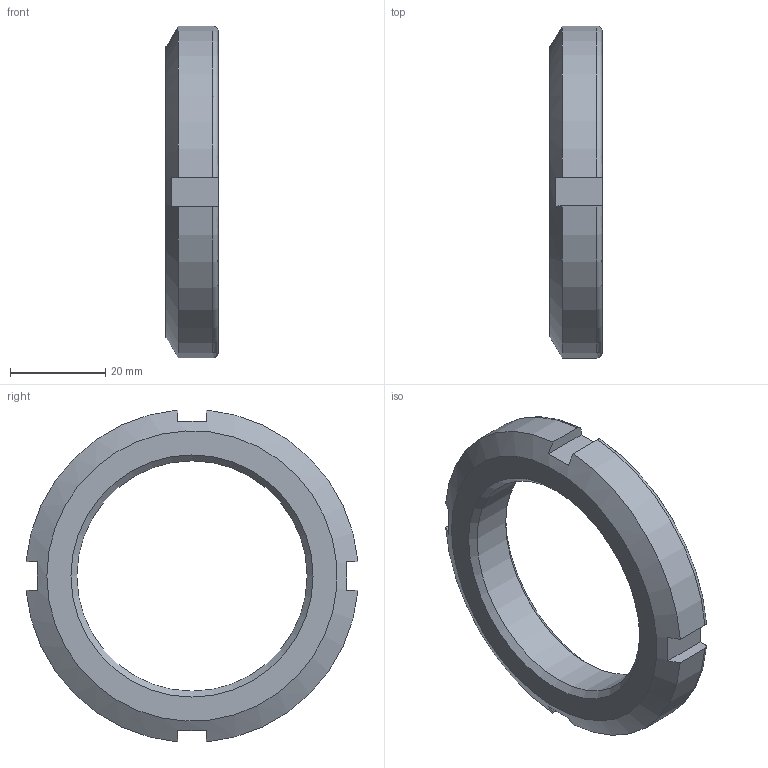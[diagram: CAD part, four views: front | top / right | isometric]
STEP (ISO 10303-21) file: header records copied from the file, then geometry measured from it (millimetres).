
FILE_DESCRIPTION(/* description */ ('Locknuts and locking devices-Dimensions - Locknuts(4 slots)'),/* implementation_level */ '2;1');
FILE_NAME(/* name */ 'D:\lock nut\LOCK NUT ISO 2982-2 - M50 x 1,5 x 61.stp',/* time_stamp */ '2022-04-01T13:49:29+07:00',/* author */ ('USER'),/* organization */ (''),/* preprocessor_version */ 'ST-DEVELOPER v16.1',/* originating_system */ 'Autodesk Inventor 2016',/* authorisation */ '');
FILE_SCHEMA (('AUTOMOTIVE_DESIGN { 1 0 10303 214 3 1 1 }'));
Length unit declared in the file: millimetre
Products named in the file (1): LOCK NUT ISO 2982-2 - M50 x 1,5 x 61
Bounding box: 11 x 69.74 x 69.74 mm (x, y, z)
Volume: 20055.1 mm3; surface area: 7448.9 mm2
Topology: 1 solids, 1 shells, 26 faces, 72 edges, 48 vertices
Faces by surface type: plane 14, cylinder 5, torus 4, cone 3
Full cylindrical faces by diameter (mm): 48.376 x1
Entity records: 858 total; most frequent: CARTESIAN_POINT 233, ORIENTED_EDGE 130, DIRECTION 116, EDGE_CURVE 65, VERTEX_POINT 45, AXIS2_PLACEMENT_3D 44, EDGE_LOOP 32, LINE 28
